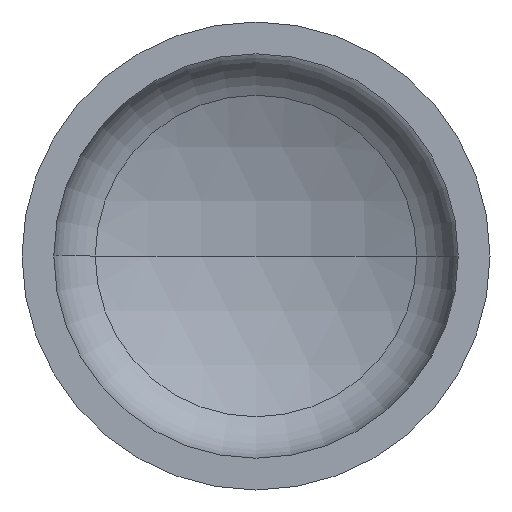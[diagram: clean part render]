
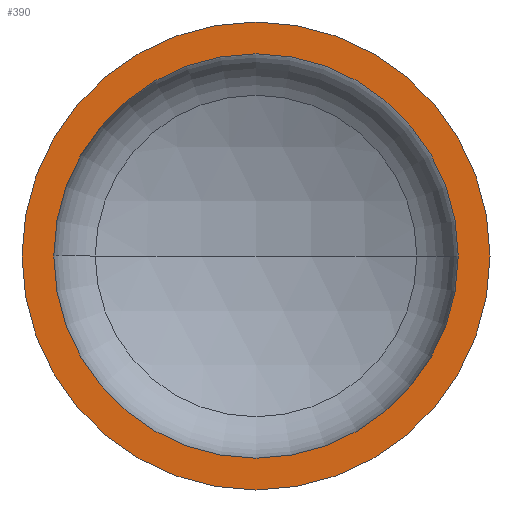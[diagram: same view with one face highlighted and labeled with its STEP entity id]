
A CAD part, front view. The second image highlights one B-rep face of the part: STEP entity #390.
In plain terms, the highlighted planar face has unit normal (0, -1, 0).
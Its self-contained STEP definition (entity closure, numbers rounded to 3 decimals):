
#12 = ORIENTED_EDGE ( 'NONE', *, *, #99, .T. ) ;
#45 = VERTEX_POINT ( 'NONE', #157 ) ;
#48 = EDGE_LOOP ( 'NONE', ( #118, #12 ) ) ;
#53 = ORIENTED_EDGE ( 'NONE', *, *, #102, .F. ) ;
#61 = DIRECTION ( 'NONE',  ( 0., -1., 0. ) ) ;
#62 = AXIS2_PLACEMENT_3D ( 'NONE', #205, #330, #228 ) ;
#65 = AXIS2_PLACEMENT_3D ( 'NONE', #281, #280, #279 ) ;
#90 = VERTEX_POINT ( 'NONE', #111 ) ;
#92 = ORIENTED_EDGE ( 'NONE', *, *, #380, .F. ) ;
#99 = EDGE_CURVE ( 'NONE', #151, #352, #327, .T. ) ;
#102 = EDGE_CURVE ( 'NONE', #90, #45, #104, .T. ) ;
#104 = CIRCLE ( 'NONE', #62, 432. ) ;
#111 = CARTESIAN_POINT ( 'NONE',  ( 432., 0., 0. ) ) ;
#118 = ORIENTED_EDGE ( 'NONE', *, *, #388, .T. ) ;
#151 = VERTEX_POINT ( 'NONE', #302 ) ;
#157 = CARTESIAN_POINT ( 'NONE',  ( -432., 0., 0. ) ) ;
#173 = DIRECTION ( 'NONE',  ( 0., -1., 0. ) ) ;
#185 = DIRECTION ( 'NONE',  ( 1., 0., 0. ) ) ;
#197 = CIRCLE ( 'NONE', #306, 432. ) ;
#205 = CARTESIAN_POINT ( 'NONE',  ( 0., 0., 0. ) ) ;
#228 = DIRECTION ( 'NONE',  ( 1., 0., 0. ) ) ;
#236 = DIRECTION ( 'NONE',  ( 1., 0., 0. ) ) ;
#241 = PLANE ( 'NONE',  #385 ) ;
#253 = CIRCLE ( 'NONE', #344, 500. ) ;
#260 = DIRECTION ( 'NONE',  ( -1., 0., 0. ) ) ;
#262 = CARTESIAN_POINT ( 'NONE',  ( 0., 0., 0. ) ) ;
#279 = DIRECTION ( 'NONE',  ( 1., 0., 0. ) ) ;
#280 = DIRECTION ( 'NONE',  ( 0., -1., 0. ) ) ;
#281 = CARTESIAN_POINT ( 'NONE',  ( 0., 0., 0. ) ) ;
#302 = CARTESIAN_POINT ( 'NONE',  ( -500., 0., 0. ) ) ;
#306 = AXIS2_PLACEMENT_3D ( 'NONE', #262, #61, #185 ) ;
#312 = CARTESIAN_POINT ( 'NONE',  ( 0., 0., 0. ) ) ;
#313 = CARTESIAN_POINT ( 'NONE',  ( -500., 0., 0. ) ) ;
#327 = CIRCLE ( 'NONE', #65, 500. ) ;
#330 = DIRECTION ( 'NONE',  ( 0., -1., 0. ) ) ;
#338 = CARTESIAN_POINT ( 'NONE',  ( 500., 0., 0. ) ) ;
#340 = FACE_BOUND ( 'NONE', #341, .T. ) ;
#341 = EDGE_LOOP ( 'NONE', ( #53, #92 ) ) ;
#344 = AXIS2_PLACEMENT_3D ( 'NONE', #312, #173, #236 ) ;
#352 = VERTEX_POINT ( 'NONE', #338 ) ;
#368 = FACE_OUTER_BOUND ( 'NONE', #48, .T. ) ;
#380 = EDGE_CURVE ( 'NONE', #45, #90, #197, .T. ) ;
#385 = AXIS2_PLACEMENT_3D ( 'NONE', #313, #406, #260 ) ;
#388 = EDGE_CURVE ( 'NONE', #352, #151, #253, .T. ) ;
#390 = ADVANCED_FACE ( 'NONE', ( #340, #368 ), #241, .F. ) ;
#406 = DIRECTION ( 'NONE',  ( 0., 1., 0. ) ) ;
